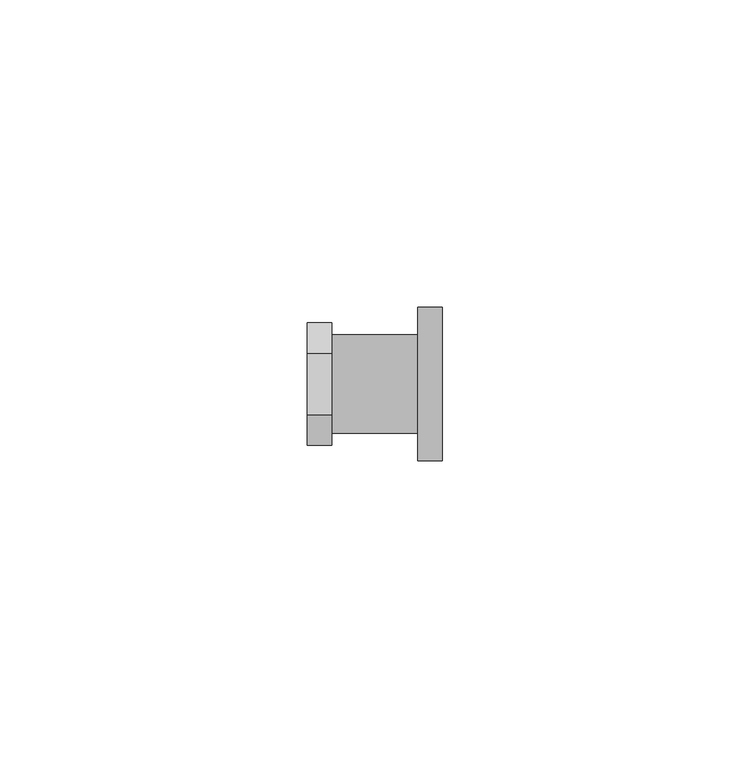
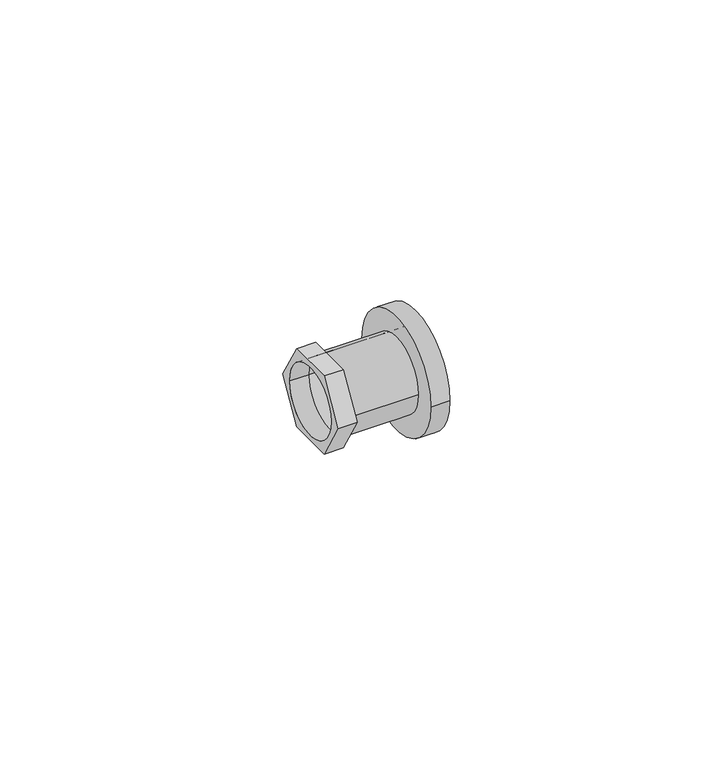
"""IFC4 building model written with IfcOpenShell, lengths in millimetres: pipe fitting geometry, БИР ПЕКС_НПР_Соединитель_Гайка накидная : Соединитель прямой с накидной гайкой."""

from ifc_helpers import new_model, si_unit, point, frame, origin, origin_2d, place, context, project, spatial, polyline, circle_curve, trimmed, segment, composite_curve, outline, extrude, source, transform, mapped, element, save


def pipe_fitting_c86cdf7f(model_context):
    return source(origin(), model_context, "Body", "SweptSolid", [
        extrude(outline(polyline([(-5.0, -8.660254), (-10.0, 0.0), (-5.0, 8.660254), (5.0, 8.660254), (10.0, 0.0), (5.0, -8.660254), (-5.0, -8.660254)]), holes=[composite_curve([segment(trimmed(circle_curve(origin_2d(), 7.5), [point((-7.5, 0.0))], [point((7.5, 0.0))], True, "CARTESIAN"), True, "CONTINUOUS"), segment(trimmed(circle_curve(origin_2d(), 7.5), [point((7.5, 0.0))], [point((-7.5, 0.0))], True, "CARTESIAN"), True, "CONTINUOUS")], self_intersect=False)]), frame((-11.0, 0.0, 0.0), z_axis=(1.0, 0.0, 0.0), x_axis=(0.0, 1.0, 0.0)), (0.0, 0.0, 1.0), 4.0),
        extrude(outline(composite_curve([segment(trimmed(circle_curve(origin_2d(), 8.0), [point((-8.0, 0.0))], [point((8.0, 0.0))], False, "CARTESIAN"), True, "CONTINUOUS"), segment(trimmed(circle_curve(origin_2d(), 8.0), [point((8.0, 0.0))], [point((-8.0, 0.0))], False, "CARTESIAN"), True, "CONTINUOUS")], self_intersect=False), holes=[composite_curve([segment(trimmed(circle_curve(origin_2d(), 7.5), [point((-7.5, 0.0))], [point((7.5, 0.0))], True, "CARTESIAN"), True, "CONTINUOUS"), segment(trimmed(circle_curve(origin_2d(), 7.5), [point((7.5, 0.0))], [point((-7.5, 0.0))], True, "CARTESIAN"), True, "CONTINUOUS")], self_intersect=False)]), frame((-7.0, 0.0, 0.0), z_axis=(1.0, 0.0, 0.0), x_axis=(0.0, 1.0, 0.0)), (0.0, 0.0, 1.0), 14.0),
        extrude(outline(composite_curve([segment(trimmed(circle_curve(origin_2d(), 12.5), [point((-12.5, 0.0))], [point((12.5, 0.0))], False, "CARTESIAN"), True, "CONTINUOUS"), segment(trimmed(circle_curve(origin_2d(), 12.5), [point((12.5, 0.0))], [point((-12.5, 0.0))], False, "CARTESIAN"), True, "CONTINUOUS")], self_intersect=False), holes=[composite_curve([segment(trimmed(circle_curve(origin_2d(), 7.5), [point((-7.5, 0.0))], [point((7.5, 0.0))], True, "CARTESIAN"), True, "CONTINUOUS"), segment(trimmed(circle_curve(origin_2d(), 7.5), [point((7.5, 0.0))], [point((-7.5, 0.0))], True, "CARTESIAN"), True, "CONTINUOUS")], self_intersect=False)]), frame((7.0, 0.0, 0.0), z_axis=(1.0, 0.0, 0.0), x_axis=(0.0, 1.0, 0.0)), (0.0, 0.0, 1.0), 4.0),
    ])


if __name__ == "__main__":
    model = new_model("IFC4")
    model_context = context("Model", 3, world=origin())
    ifc_project = project(units=[si_unit("LENGTHUNIT", "METRE", prefix="MILLI")], contexts=[model_context])
    site = spatial("IfcSite", under=ifc_project)
    building = spatial("IfcBuilding", under=site)
    placement = place(None, origin())
    pipe_fitting_shape = pipe_fitting_c86cdf7f(model_context)
    element("IfcPipeFitting", 1, ObjectType="БИР ПЕКС_НПР_Соединитель_Гайка накидная : Соединитель прямой с накидной гайкой", at=placement, inside=building, context=model_context, shape_type="MappedRepresentation", body=[
        mapped(pipe_fitting_shape, transform((0.0, 0.0, 0.0), x_axis=(1.0, 0.0, 0.0), y_axis=(0.0, 1.0, 0.0), z_axis=(0.0, 0.0, 1.0))),
    ])
    save(model, "model.ifc")
